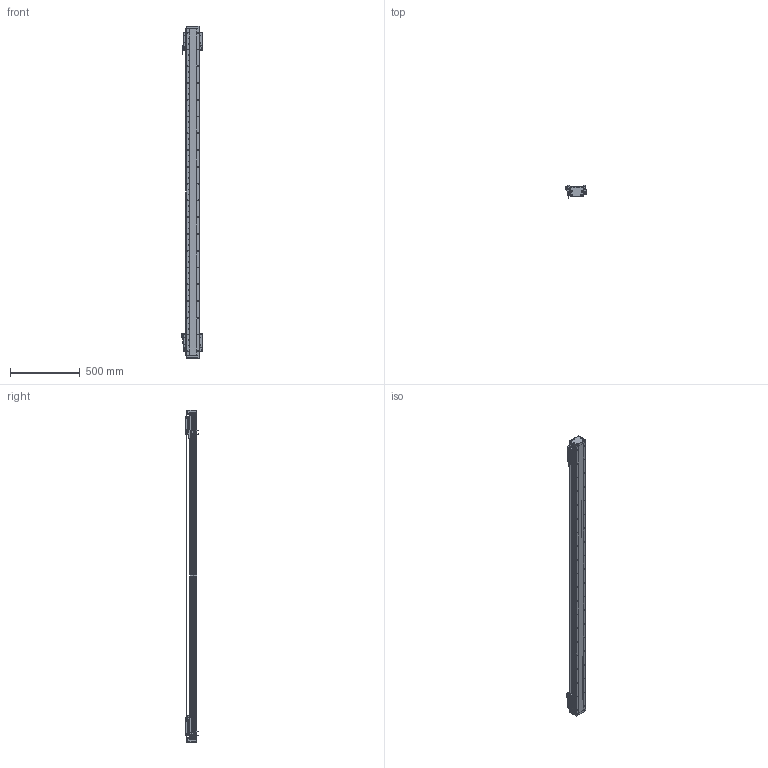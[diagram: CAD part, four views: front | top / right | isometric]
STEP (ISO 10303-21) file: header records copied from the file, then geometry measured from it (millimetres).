
FILE_DESCRIPTION (( 'STEP AP203' ), '1' );
FILE_NAME ('DA-B95-2-B15-T2000-C010-0.2 直线电机.STEP', '2023-05-06T06:35:27', ( '微软用户' ), ( '微软中国' ), 'SwSTEP 2.0', 'SolidWorks 2019', '' );
FILE_SCHEMA (( 'CONFIG_CONTROL_DESIGN' ));
Length unit declared in the file: millimetre
Products named in the file (34): DA95-HXJ-00 缓冲橡胶^DA-A95-B15-T-C010-0.2-N 直线电机; 复件 66245-BU95-HT-V-01 滑动台板^66245-BU95-V-00 一体化滑动台板; PM-T45 光电开关^DA-A95-B15-T-C010-0.2-N 直线电机; 葩璃 DA95-GT-T-00^IU-BU95-L 菁釱絳寢_DA95; 复件 DKW-KGZ-ZJ-00 中间光电开关支架^DA-A95-B15-T-C010-0.2-N 直线电机; 复件 DA95-B15-YB-B-00 压板B^66245-BU95-V 滚珠滑台; IU-BU95-L-00 菁釱_L2340; 66245-BU95-V 幗紩賑怢; DA-A95-GYP-00 光电感应片^DA-A95-B15-T-C010-0.2-N 直线电机; 葩璃 BKM015-W060-C1-TP-DA-0.2^DA-A95-B15-T-C010-0.2-N 眻盄萇儂; 66245-BU95-V-00 珨极趙賑雄怢啣; 葩璃 DA95-B15-DP--B-00 菜えB^66245-BU95-V 幗紩賑怢; 复件 复件 18252-0001-003-00 钢带拉块^DA-A95-B15-T-C010-0.2-N 直线电机; LMDK-2-R001-V5-L02-C1-F00，0.2M 读数头^DA-A95-B15-T-C010-0.2-N 直线电机_DMA-010-0.2; 葩璃 BKMA01-W060-TRL^DA-A95-B15-T-C010-0.2-N 眻盄萇儂; 复件 DA95-DB-00  挡板^66245-BU95-V 滚珠滑台; 复件 DKW-GYP-ZJ-00 中间光电感应片^DA-A95-B15-T-C010-0.2-N 直线电机; DA-B95-2-B15-T2000-C010-0.2 眻盄萇儂; 复件 DA95-B15-YB-A-00 压板A^66245-BU95-V 滚珠滑台; 复件 DA95-B15 钢带盖板^DA-A95-B15-T-C010-0.2-N 直线电机; 复件 复件 18252-0001-002-00 钢带垫块^DA-A95-B15-T-C010-0.2-N 直线电机; B15 XD-U-02L ｴﾅﾕ､ｳﾟ^DA-A95-B15-T-C010-0.2-N ﾖｱﾏﾟｵ扈銈XD-U-02L; 复件 六角薄螺母 M3^DA-A95-B15-T-C010-0.2-N 直线电机_GB_FASTENER_NUT_STNAB M3-C; 复件 DA95-DK-00 挡块^66245-BU95-V 滚珠滑台; 复件 DA95-HK-GT-00 滑块钢轨^66245-BU95-V-00 一体化滑动台板; IU-BU95-L 菁釱絳寢; 复件 DKW-HXJ-JY-00 缓冲橡胶^DA-A95-B15-T-C010-0.2-N 直线电机; 葩璃 DA95-B15-DP-A-00 菜えA^66245-BU95-V 幗紩賑怢; 复件 复件 18252-0001-004-00 钢带端盖^DA-A95-B15-T-C010-0.2-N 直线电机; 复件 纯铜油杯 6x6mm^66245-BU95-V 滚珠滑台; 复件 DA95-MFP-01 密封片^66245-BU95-V 滚珠滑台; 葩璃 PM-Y45^DA-A95-B15-T-C010-0.2-N 眻盄萇儂
Assembly tree (80 placements, depth 4):
  DA-B95-2-B15-T2000-C010-0.2 眻盄萇儂
    IU-BU95-L 菁釱絳寢
      IU-BU95-L-00 菁釱_L2340
      葩璃 DA95-GT-T-00^IU-BU95-L 菁釱絳寢_DA95  x2
    66245-BU95-V 幗紩賑怢
      66245-BU95-V-00 珨极趙賑雄怢啣
        复件 66245-BU95-HT-V-01 滑动台板^66245-BU95-V-00 一体化滑动台板
        复件 DA95-HK-GT-00 滑块钢轨^66245-BU95-V-00 一体化滑动台板  x2
      葩璃 DA95-B15-DP-A-00 菜えA^66245-BU95-V 幗紩賑怢
      复件 DA95-B15-YB-A-00 压板A^66245-BU95-V 滚珠滑台
      复件 DA95-B15-YB-B-00 压板B^66245-BU95-V 滚珠滑台
      复件 DA95-DB-00  挡板^66245-BU95-V 滚珠滑台  x4
      复件 DA95-DK-00 挡块^66245-BU95-V 滚珠滑台  x2
      复件 DA95-MFP-01 密封片^66245-BU95-V 滚珠滑台  x4
      复件 纯铜油杯 6x6mm^66245-BU95-V 滚珠滑台  x2
      葩璃 DA95-B15-DP--B-00 菜えB^66245-BU95-V 幗紩賑怢
    66245-BU95-V 幗紩賑怢
      66245-BU95-V-00 珨极趙賑雄怢啣
        复件 66245-BU95-HT-V-01 滑动台板^66245-BU95-V-00 一体化滑动台板
        复件 DA95-HK-GT-00 滑块钢轨^66245-BU95-V-00 一体化滑动台板  x2
      葩璃 DA95-B15-DP-A-00 菜えA^66245-BU95-V 幗紩賑怢
      复件 DA95-B15-YB-A-00 压板A^66245-BU95-V 滚珠滑台
      复件 DA95-B15-YB-B-00 压板B^66245-BU95-V 滚珠滑台
      复件 DA95-DB-00  挡板^66245-BU95-V 滚珠滑台  x4
      复件 DA95-DK-00 挡块^66245-BU95-V 滚珠滑台  x2
      复件 DA95-MFP-01 密封片^66245-BU95-V 滚珠滑台  x4
      复件 纯铜油杯 6x6mm^66245-BU95-V 滚珠滑台  x2
      葩璃 DA95-B15-DP--B-00 菜えB^66245-BU95-V 幗紩賑怢
    DA-A95-GYP-00 光电感应片^DA-A95-B15-T-C010-0.2-N 直线电机  x2
    LMDK-2-R001-V5-L02-C1-F00，0.2M 读数头^DA-A95-B15-T-C010-0.2-N 直线电机_DMA-010-0.2  x2
    复件 DKW-KGZ-ZJ-00 中间光电开关支架^DA-A95-B15-T-C010-0.2-N 直线电机
    葩璃 PM-Y45^DA-A95-B15-T-C010-0.2-N 眻盄萇儂
    复件 DKW-GYP-ZJ-00 中间光电感应片^DA-A95-B15-T-C010-0.2-N 直线电机
    葩璃 BKM015-W060-C1-TP-DA-0.2^DA-A95-B15-T-C010-0.2-N 眻盄萇儂  x2
    复件 DKW-HXJ-JY-00 缓冲橡胶^DA-A95-B15-T-C010-0.2-N 直线电机  x2
    PM-T45 光电开关^DA-A95-B15-T-C010-0.2-N 直线电机  x4
    B15 XD-U-02L ｴﾅﾕ､ｳﾟ^DA-A95-B15-T-C010-0.2-N ﾖｱﾏﾟｵ扈銈XD-U-02L
    复件 复件 18252-0001-003-00 钢带拉块^DA-A95-B15-T-C010-0.2-N 直线电机  x2
    复件 复件 18252-0001-002-00 钢带垫块^DA-A95-B15-T-C010-0.2-N 直线电机  x2
    复件 复件 18252-0001-004-00 钢带端盖^DA-A95-B15-T-C010-0.2-N 直线电机  x2
    复件 DA95-B15 钢带盖板^DA-A95-B15-T-C010-0.2-N 直线电机
    DA95-HXJ-00 缓冲橡胶^DA-A95-B15-T-C010-0.2-N 直线电机  x4
    葩璃 BKMA01-W060-TRL^DA-A95-B15-T-C010-0.2-N 眻盄萇儂
    复件 六角薄螺母 M3^DA-A95-B15-T-C010-0.2-N 直线电机_GB_FASTENER_NUT_STNAB M3-C  x6
Bounding box: 145.4 x 90.2 x 2376 mm (x, y, z)
Volume: 7802326 mm3; surface area: 2576650.3 mm2
Topology: 75 solids, 93 shells, 4132 faces, 11572 edges, 7327 vertices
Faces by surface type: cylinder 2101, plane 1499, cone 464, torus 64, sphere 4
Entity records: 98114 total; most frequent: CARTESIAN_POINT 25404, ORIENTED_EDGE 14502, DIRECTION 14094, EDGE_CURVE 7251, AXIS2_PLACEMENT_3D 5353, VERTEX_POINT 4729, VECTOR 3388, LINE 3388
